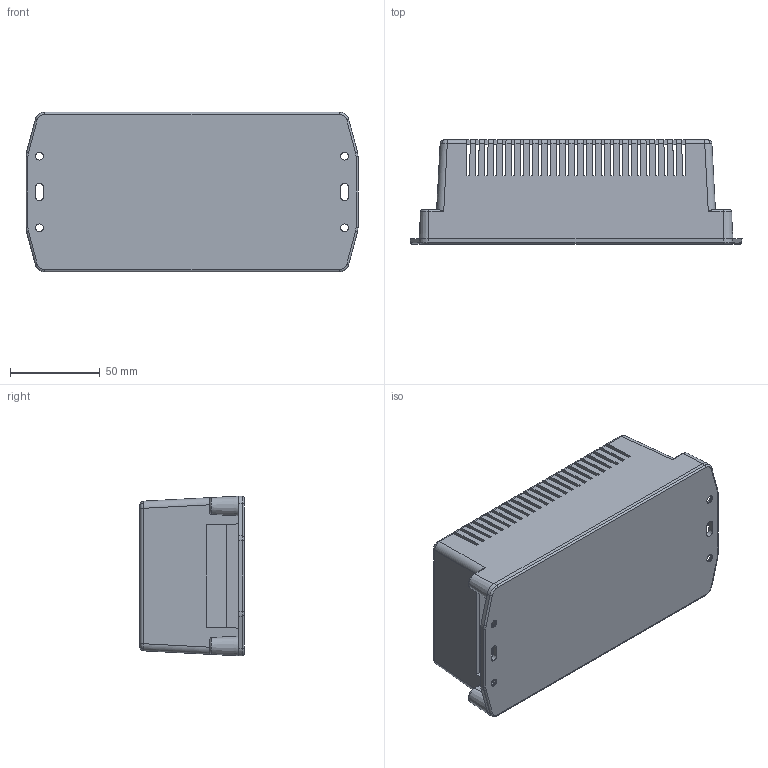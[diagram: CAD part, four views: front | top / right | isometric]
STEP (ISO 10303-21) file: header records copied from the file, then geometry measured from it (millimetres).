
FILE_DESCRIPTION (( 'STEP AP203' ), '1' );
FILE_NAME ('DM-090-0-0.STEP', '2018-02-07T05:14:33', ( '' ), ( '' ), 'SwSTEP 2.0', 'SolidWorks 2015', '' );
FILE_SCHEMA (( 'CONFIG_CONTROL_DESIGN' ));
Length unit declared in the file: millimetre
Products named in the file (3): DM-090-P-1-; DM-090-P-1; DM-090-0-0
Assembly tree (2 placements, depth 2):
  DM-090-0-0
    DM-090-P-1-
    DM-090-P-1
Bounding box: 185 x 58 x 89 mm (x, y, z)
Volume: 138047.1 mm3; surface area: 120424.1 mm2
Topology: 2 solids, 2 shells, 577 faces, 1766 edges, 1120 vertices
Faces by surface type: plane 345, cylinder 110, cone 90, bspline 20, torus 12
Entity records: 20365 total; most frequent: CARTESIAN_POINT 4472, ORIENTED_EDGE 3532, DIRECTION 2982, EDGE_CURVE 1766, VECTOR 1354, LINE 1354, VERTEX_POINT 1120, AXIS2_PLACEMENT_3D 814
